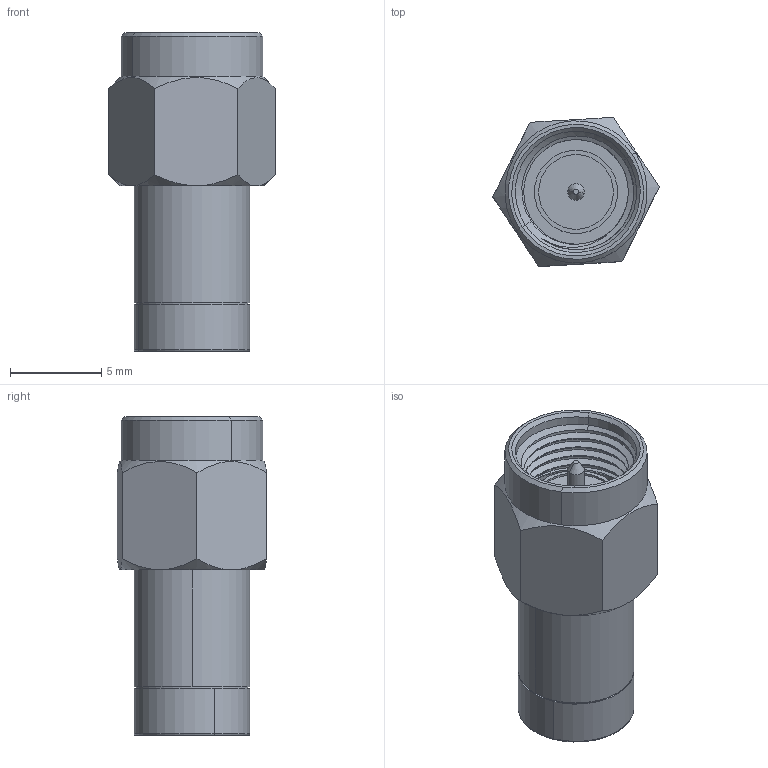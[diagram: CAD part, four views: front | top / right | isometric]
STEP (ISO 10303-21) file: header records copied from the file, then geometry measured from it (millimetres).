
FILE_DESCRIPTION (( 'STEP AP214' ), '1' );
FILE_NAME ('SF1114-6006.STEP', '2017-02-06T19:58:49', ( '' ), ( '' ), 'SwSTEP 2.0', 'SolidWorks 2016', '' );
FILE_SCHEMA (( 'AUTOMOTIVE_DESIGN' ));
Length unit declared in the file: inch
Products named in the file (1): SF1114-6006
Bounding box: 9.13 x 8.18 x 17.49 mm (x, y, z)
Volume: 533.8 mm3; surface area: 843.2 mm2
Topology: 1 solids, 1 shells, 479 faces, 1441 edges, 948 vertices
Faces by surface type: cylinder 170, torus 150, plane 97, cone 59, bspline 3
Entity records: 25116 total; most frequent: CARTESIAN_POINT 6769, ORIENTED_EDGE 2878, DIRECTION 2234, EDGE_CURVE 1439, VERTEX_POINT 948, AXIS2_PLACEMENT_3D 944, B_SPLINE_CURVE_WITH_KNOTS 607, EDGE_LOOP 495
